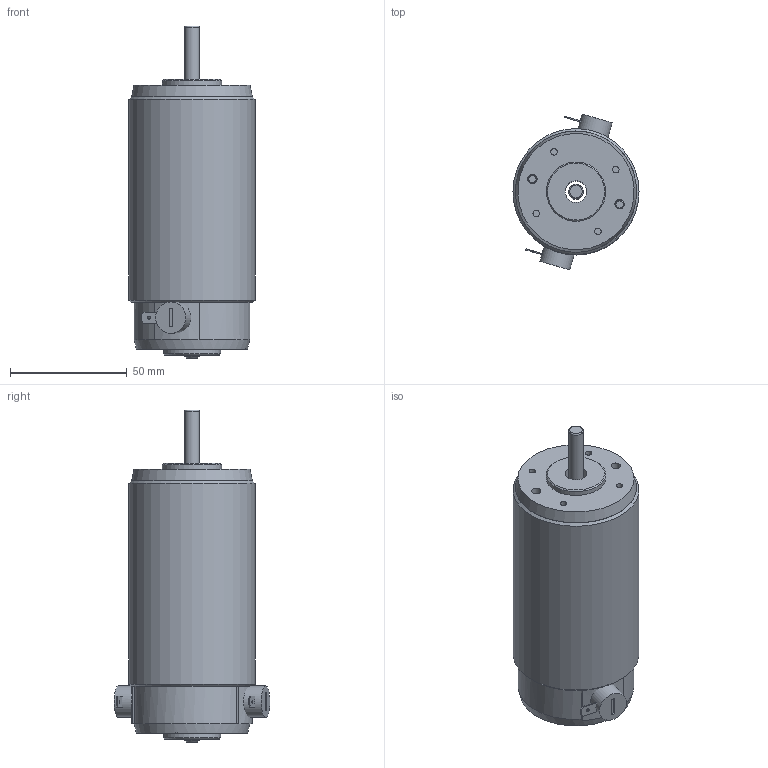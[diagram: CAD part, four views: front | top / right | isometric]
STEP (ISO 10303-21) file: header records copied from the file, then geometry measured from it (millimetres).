
FILE_DESCRIPTION((''),'2;1');
FILE_NAME('D:\연구개발부2팀 1파트\10_진행업무\3D\RM5_SERIES\RM55_TYPE.stp','2014-06-23T10:41:16',('song'),(''),'Autodesk Inventor 2011','Autodesk Inventor 2011','');
FILE_SCHEMA(('AUTOMOTIVE_DESIGN { 1 0 10303 214 1 1 1 1 }'));
Length unit declared in the file: millimetre
Products named in the file (11): RM55_TYPE; RM55_SHAFT; RM5_FRONT; RM5_PIPE_pi54XL88; RM5_TYPE_REAR_HOUSING; RM5_REAR; BRUSH_HOLDER_ASSY; BRUSH_HOLDER_ASSY_MIR; RM5_BRUSH_COVER_RED; RM5_BRUSH_COVER_BRACK; AS 1427 Z - 미터 M4 x 50
Assembly tree (11 placements, depth 3):
  RM55_TYPE
    RM55_SHAFT
    RM5_FRONT
    RM5_PIPE_pi54XL88
    RM5_TYPE_REAR_HOUSING
      RM5_REAR
      BRUSH_HOLDER_ASSY
      BRUSH_HOLDER_ASSY_MIR
      RM5_BRUSH_COVER_RED
      RM5_BRUSH_COVER_BRACK
    AS 1427 Z - 미터 M4 x 50  x2
Bounding box: 54 x 66.72 x 142.2 mm (x, y, z)
Volume: 91797.9 mm3; surface area: 50862.7 mm2
Topology: 10 solids, 10 shells, 189 faces, 459 edges, 300 vertices
Faces by surface type: plane 96, cylinder 43, cone 41, torus 9
Full cylindrical faces by diameter (mm): 1.3 x2, 2.8 x7, 3.571 x2, 4 x4, 4.2 x2, 5.76 x3, 6.334 x1, 7 x2, 9.3 x2, 11 x4, 13.4 x2, 24.5 x1, 25.4 x1, 46 x2, 49.6 x1, 54 x1
Entity records: 4639 total; most frequent: CARTESIAN_POINT 1103, DIRECTION 694, ORIENTED_EDGE 564, AXIS2_PLACEMENT_3D 289, EDGE_CURVE 282, EDGE_LOOP 238, VERTEX_POINT 212, FACE_OUTER_BOUND 148
